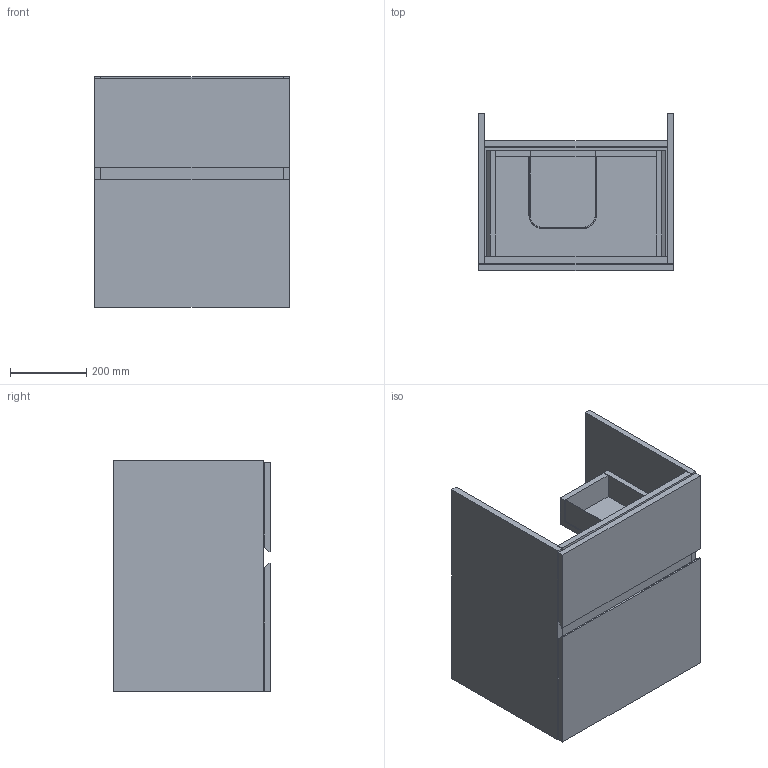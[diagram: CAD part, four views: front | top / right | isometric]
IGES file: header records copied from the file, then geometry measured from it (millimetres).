
Global section: file name: 510018; native system: Autodesk Inventor 2023; preprocessor: unknown; author: JANAN; date: 20241002.131532; units: millimetre
Bounding box: 510 x 410 x 605 mm (x, y, z)
Volume: 24515247.1 mm3; surface area: 3332849.3 mm2
Topology: 9 solids, 9 shells, 120 faces, 298 edges, 196 vertices
Faces by surface type: bspline 120
